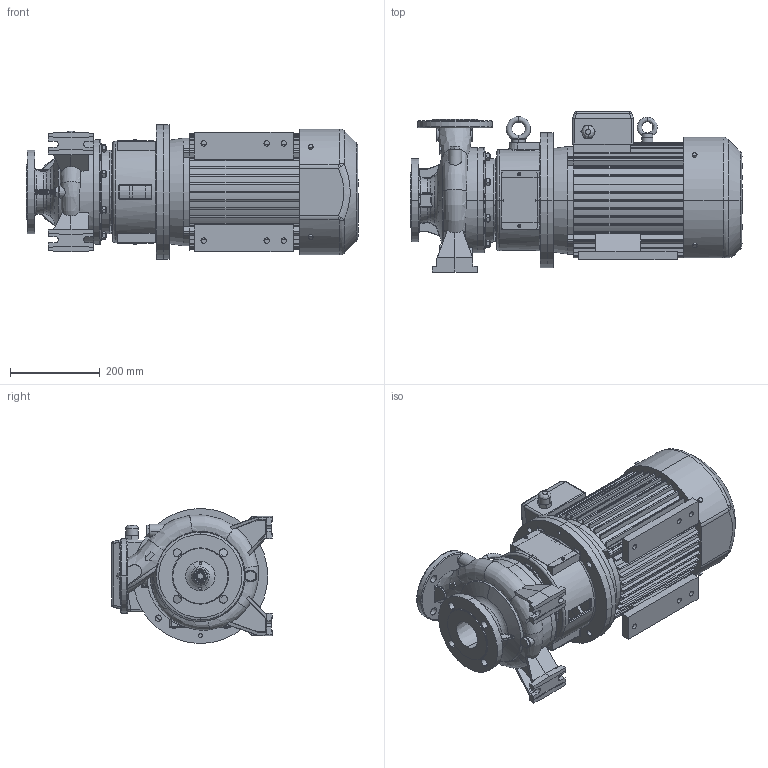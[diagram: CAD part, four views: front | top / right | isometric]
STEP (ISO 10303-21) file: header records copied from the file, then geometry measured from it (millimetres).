
FILE_DESCRIPTION (( 'STEP AP203' ), '1' );
FILE_NAME ('CNG 50-160 B Special Nema Premium.STEP', '2017-05-30T09:51:07', ( 'tecnico1' ), ( '' ), 'SwSTEP 2.0', 'SolidWorks 2016', '' );
FILE_SCHEMA (( 'CONFIG_CONTROL_DESIGN' ));
Products named in the file (1): CNG 50-160 B Special Nema Premium
Bounding box: 738 x 357 x 300 mm (x, y, z)
Volume: 29379257.5 mm3; surface area: 2261235.7 mm2
Topology: 51 solids, 51 shells, 2166 faces, 5466 edges, 3362 vertices
Faces by surface type: plane 729, cylinder 676, cone 342, bspline 206, torus 195, sphere 18
Entity records: 118769 total; most frequent: CARTESIAN_POINT 68137, ORIENTED_EDGE 10704, DIRECTION 10352, EDGE_CURVE 5352, AXIS2_PLACEMENT_3D 4035, VERTEX_POINT 3362, EDGE_LOOP 2408, VECTOR 2282
